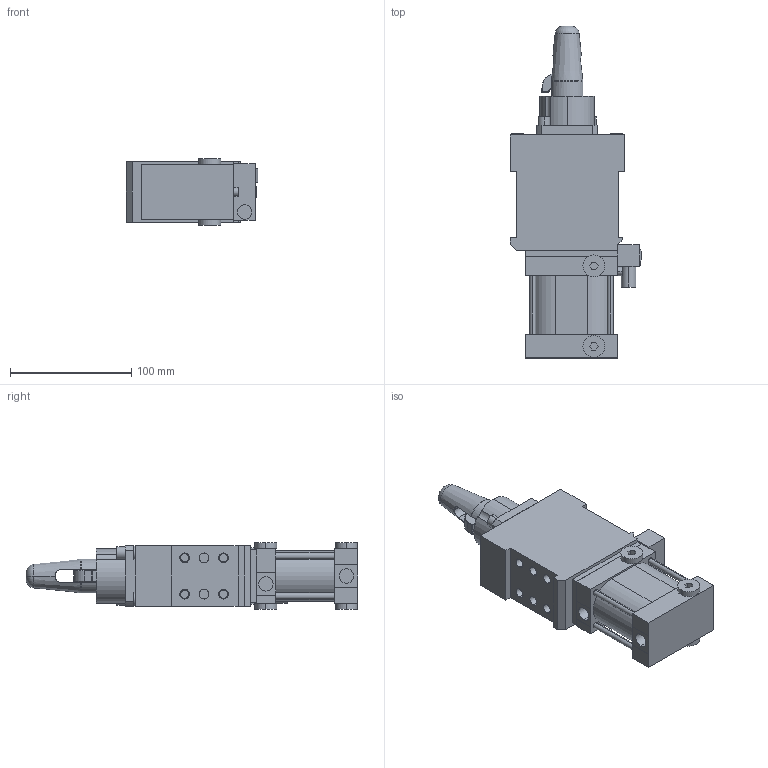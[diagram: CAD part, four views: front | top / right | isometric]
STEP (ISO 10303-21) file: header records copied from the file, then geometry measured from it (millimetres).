
FILE_DESCRIPTION (( 'STEP AP203' ), '1' );
FILE_NAME ('dca50ri-08514std.STEP', '2017-04-21T13:31:10', ( '' ), ( '' ), 'SwSTEP 2.0', 'SolidWorks 2016', '' );
FILE_SCHEMA (( 'CONFIG_CONTROL_DESIGN' ));
Length unit declared in the file: millimetre
Products named in the file (1): dca50ri-08514std
Bounding box: 108.6 x 274 x 55 mm (x, y, z)
Volume: 767029.3 mm3; surface area: 125132.8 mm2
Topology: 11 solids, 11 shells, 449 faces, 1046 edges, 685 vertices
Faces by surface type: plane 263, cylinder 159, cone 21, torus 6
Entity records: 13024 total; most frequent: CARTESIAN_POINT 2399, DIRECTION 2251, ORIENTED_EDGE 2092, EDGE_CURVE 1046, AXIS2_PLACEMENT_3D 789, VERTEX_POINT 685, VECTOR 673, LINE 673
